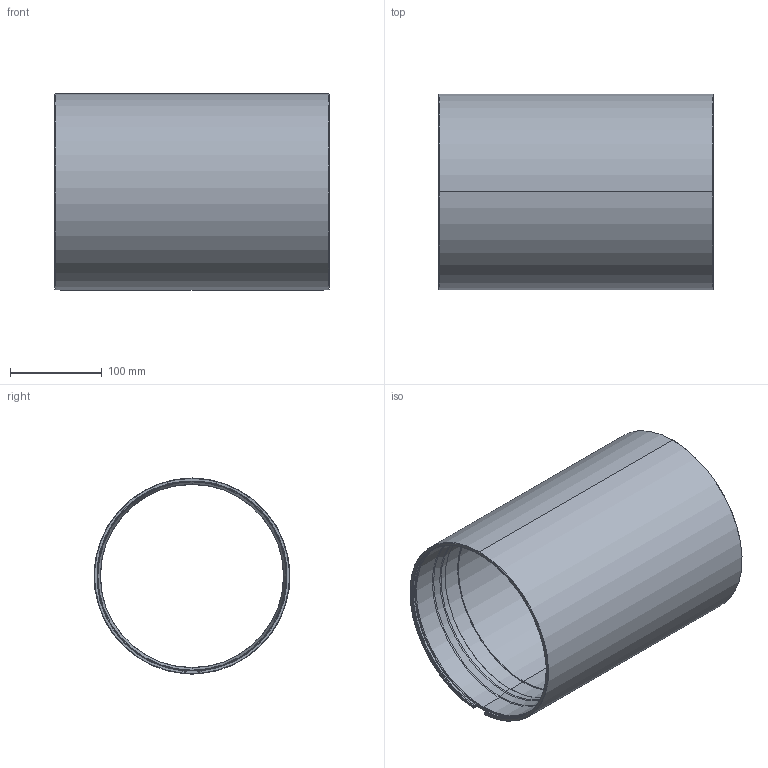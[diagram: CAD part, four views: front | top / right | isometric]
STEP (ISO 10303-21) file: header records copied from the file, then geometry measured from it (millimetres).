
FILE_DESCRIPTION (( 'STEP AP214' ), '1' );
FILE_NAME ('BR-101412-300_RevB.STEP', '2025-01-23T23:43:29', ( '' ), ( '' ), 'SwSTEP 2.0', 'SolidWorks 2024', '' );
FILE_SCHEMA (( 'AUTOMOTIVE_DESIGN' ));
Length unit declared in the file: millimetre
Products named in the file (1): BR-101412-300_RevB
Bounding box: 300 x 214.01 x 214.2 mm (x, y, z)
Volume: 1207439.4 mm3; surface area: 399506.3 mm2
Topology: 1 solids, 1 shells, 116 faces, 284 edges, 172 vertices
Faces by surface type: cylinder 30, cone 26, bspline 24, torus 20, plane 16
Entity records: 6335 total; most frequent: CARTESIAN_POINT 3815, ORIENTED_EDGE 568, DIRECTION 460, EDGE_CURVE 284, AXIS2_PLACEMENT_3D 199, VERTEX_POINT 172, EDGE_LOOP 120, ADVANCED_FACE 116
